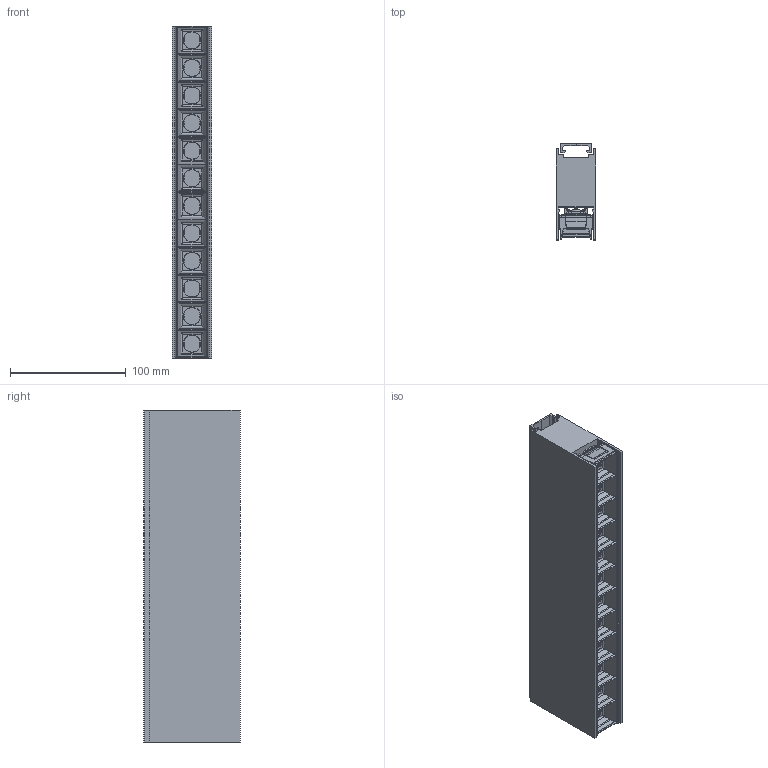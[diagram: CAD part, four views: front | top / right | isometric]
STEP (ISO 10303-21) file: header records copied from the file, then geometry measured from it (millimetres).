
FILE_DESCRIPTION (( 'STEP AP214' ), '1' );
FILE_NAME ('Evelo module SM 287mm.STEP', '2018-03-08T04:13:00', ( 'GR' ), ( 'Hewlett-Packard Company' ), 'SwSTEP 2.0', 'SolidWorks 2017', '' );
FILE_SCHEMA (( 'AUTOMOTIVE_DESIGN' ));
Length unit declared in the file: millimetre
Products named in the file (4): CC14855_FLORENTINA-RS_mechmodel; Florentina SHD; Evelo CAD module SM; Evelo module SM 287mm
Assembly tree (3 placements, depth 2):
  Evelo module SM 287mm
    Evelo CAD module SM
    Florentina SHD
    CC14855_FLORENTINA-RS_mechmodel
Bounding box: 33.8 x 83.15 x 287 mm (x, y, z)
Volume: 574108.8 mm3; surface area: 247708.8 mm2
Topology: 17 solids, 17 shells, 3631 faces, 11448 edges, 7882 vertices
Faces by surface type: plane 1737, cylinder 1062, cone 452, bspline 380
Entity records: 170843 total; most frequent: CARTESIAN_POINT 69158, ORIENTED_EDGE 22896, DIRECTION 14300, EDGE_CURVE 11448, VERTEX_POINT 7882, B_SPLINE_CURVE_WITH_KNOTS 4884, LINE 4850, VECTOR 4850
